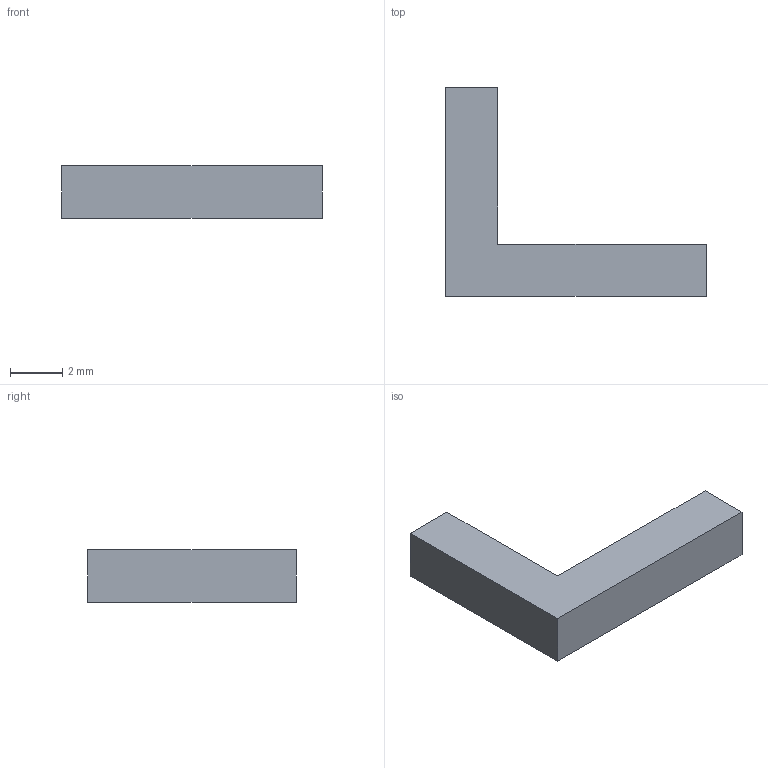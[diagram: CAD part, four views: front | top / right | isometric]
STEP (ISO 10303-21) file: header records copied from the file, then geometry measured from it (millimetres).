
FILE_DESCRIPTION(('Open CASCADE Model'),'2;1');
FILE_NAME('Open CASCADE Shape Model','2026-03-18T22:08:53',('Author'),( 'Open CASCADE'),'Open CASCADE STEP processor 7.8','Open CASCADE 7.8' ,'Unknown');
FILE_SCHEMA(('AUTOMOTIVE_DESIGN { 1 0 10303 214 1 1 1 1 }'));
Length unit declared in the file: millimetre
Products named in the file (1): Open CASCADE STEP translator 7.8 1
Bounding box: 10 x 8 x 2 mm (x, y, z)
Volume: 64 mm3; surface area: 136 mm2
Topology: 1 solids, 1 shells, 8 faces, 18 edges, 12 vertices
Faces by surface type: plane 8
Entity records: 466 total; most frequent: CARTESIAN_POINT 75, DIRECTION 72, LINE 54, VECTOR 54, ORIENTED_EDGE 36, PCURVE 36, DEFINITIONAL_REPRESENTATION 36, EDGE_CURVE 18
